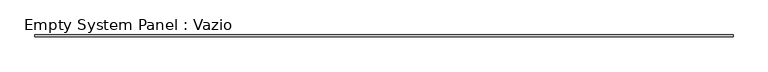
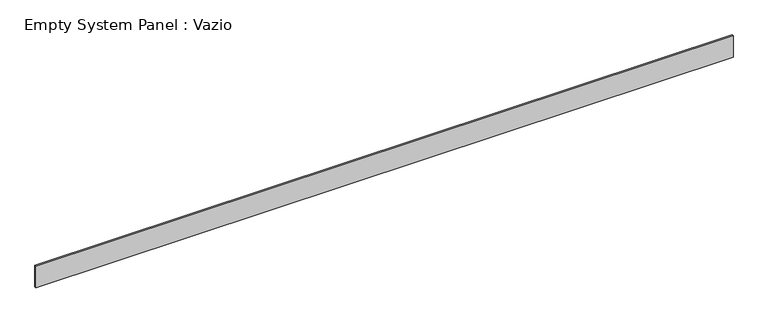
"""IFC4 building model written with IfcOpenShell, lengths in millimetres: plate geometry, Empty System Panel : Vazio."""

import ifcopenshell
import ifcopenshell.guid

model = None  # the IFC model being written
_history = None  # IfcOwnerHistory: only IFC2X3 demands one
_inside = {}  # id of a spatial element -> (the spatial element, [elements in it])
_under = {}  # id of a project, library or spatial element -> (it, [spatial elements below it])
_declared = {}  # id of a project -> (the project, [libraries it declares])
_typed = {}  # id of a type object -> (the type object, [elements of that type])
_made_of = {}  # id of a material, layer set ... -> (it, [elements and type objects made of it])


def new_model(schema):
    """Start an empty IFC model of exactly this schema.

    Asked for "IFC4X3", IfcOpenShell would pick the latest addendum, in which some entities
    have other attributes; the version numbers below select the first issue.
    IFC2X3 requires an IfcOwnerHistory on every rooted entity: one is made here for all.
    """
    global model, _history
    if schema == "IFC4X3":
        model = ifcopenshell.file(schema_version=(4, 3, 0, 0))
    else:
        model = ifcopenshell.file(schema=schema)
    _inside.clear()
    _under.clear()
    _declared.clear()
    _typed.clear()
    _made_of.clear()
    _history = None
    if model.schema == "IFC2X3":
        org = make("IfcOrganization", Name="unknown")
        user = make(
            "IfcPersonAndOrganization",
            ThePerson=make("IfcPerson", FamilyName="unknown"),
            TheOrganization=org,
        )
        app = make(
            "IfcApplication",
            ApplicationDeveloper=org,
            Version="unknown",
            ApplicationFullName="unknown",
            ApplicationIdentifier="unknown",
        )
        _history = make(
            "IfcOwnerHistory",
            OwningUser=user,
            OwningApplication=app,
            ChangeAction="ADDED",
            CreationDate=0,
        )
    return model


def make(cls, **values):
    """One entity of the class cls with the attributes given. An attribute that is None is left unset."""
    return model.create_entity(
        cls, **{name: value for name, value in values.items() if value is not None}
    )


def rooted(cls, **values):
    """An entity with a GlobalId (a new one), such as an element, a storey or a relation."""
    return make(cls, GlobalId=ifcopenshell.guid.new(), OwnerHistory=_history, **values)


def si_unit(unit_type, name, prefix=None):
    """IfcSIUnit, for example si_unit("LENGTHUNIT", "METRE", prefix="MILLI")."""
    return make("IfcSIUnit", UnitType=unit_type, Prefix=prefix, Name=name)


def assignment(units):
    """IfcUnitAssignment: the units of a project."""
    return None if units is None else make("IfcUnitAssignment", Units=units)


def point(xyz):
    """IfcCartesianPoint."""
    return None if xyz is None else make("IfcCartesianPoint", Coordinates=xyz)


def direction(xyz):
    """IfcDirection."""
    return None if xyz is None else make("IfcDirection", DirectionRatios=xyz)


def frame(location, z_axis=None, x_axis=None):
    """IfcAxis2Placement3D, a coordinate frame: its origin and axes. An axis left out is left unset."""
    return make(
        "IfcAxis2Placement3D",
        Location=point(location),
        Axis=direction(z_axis),
        RefDirection=direction(x_axis),
    )


def origin():
    """The frame at (0, 0, 0) with its axes left unset."""
    return frame((0.0, 0.0, 0.0))


def origin_with_axes():
    """The frame at (0, 0, 0) with the z axis (0, 0, 1) and the x axis (1, 0, 0) written out."""
    return frame((0.0, 0.0, 0.0), z_axis=(0.0, 0.0, 1.0), x_axis=(1.0, 0.0, 0.0))


def place(relative_to, where):
    """IfcLocalPlacement: puts the frame where relative to a parent placement (None: the world)."""
    return make(
        "IfcLocalPlacement", PlacementRelTo=relative_to, RelativePlacement=where
    )


def context(
    kind, dimensions, precision=None, world=None, true_north=None, identifier=None
):
    """IfcGeometricRepresentationContext, for example the 3D "Model" context."""
    return make(
        "IfcGeometricRepresentationContext",
        ContextIdentifier=identifier,
        ContextType=kind,
        CoordinateSpaceDimension=dimensions,
        Precision=precision,
        WorldCoordinateSystem=world,
        TrueNorth=true_north,
    )


def project(units=None, contexts=None):
    """IfcProject with its units and contexts."""
    return rooted(
        "IfcProject",
        Name="project",
        RepresentationContexts=contexts,
        UnitsInContext=assignment(units),
    )


def spatial(cls, under=None, at=None, **own):
    """A site, building, storey or space (cls), placed at a placement, below another one or the project."""
    s = rooted(cls, ObjectPlacement=at, **own)
    if under is not None:
        _under.setdefault(under.id(), (under, []))[1].append(s)
    return s


def polyline(points):
    """IfcPolyline through the points."""
    return make("IfcPolyline", Points=[point(p) for p in points])


def outline(outer, holes=None, kind="AREA"):
    """IfcArbitraryClosedProfileDef: a profile drawn as a closed curve; with holes, ...WithVoids."""
    if holes is None:
        return make("IfcArbitraryClosedProfileDef", ProfileType=kind, OuterCurve=outer)
    return make(
        "IfcArbitraryProfileDefWithVoids",
        ProfileType=kind,
        OuterCurve=outer,
        InnerCurves=holes,
    )


def extrude(swept, where, along, depth):
    """IfcExtrudedAreaSolid: the profile swept, set in the frame where, extruded along a direction by depth."""
    return make(
        "IfcExtrudedAreaSolid",
        SweptArea=swept,
        Position=where,
        ExtrudedDirection=direction(along),
        Depth=depth,
    )


def shape(context_of_items, identifier, shape_type, items):
    """IfcShapeRepresentation: the items that make up one representation, for example the "Body"."""
    return make(
        "IfcShapeRepresentation",
        ContextOfItems=context_of_items,
        RepresentationIdentifier=identifier,
        RepresentationType=shape_type,
        Items=items,
    )


def source(mapping_origin, context_of_items, identifier, shape_type, items):
    """IfcRepresentationMap: a shape defined once, which mapped items show again and again."""
    return make(
        "IfcRepresentationMap",
        MappingOrigin=mapping_origin,
        MappedRepresentation=shape(context_of_items, identifier, shape_type, items),
    )


def transform(
    local_origin,
    x_axis=None,
    y_axis=None,
    z_axis=None,
    scale=None,
    scale2=None,
    scale3=None,
    uniform=True,
):
    """IfcCartesianTransformationOperator3D, or its non-uniform kind. x_axis, y_axis, z_axis: its Axis1, 2, 3."""
    if uniform:
        return make(
            "IfcCartesianTransformationOperator3D",
            Axis1=direction(x_axis),
            Axis2=direction(y_axis),
            LocalOrigin=point(local_origin),
            Scale=scale,
            Axis3=direction(z_axis),
        )
    return make(
        "IfcCartesianTransformationOperator3DnonUniform",
        Axis1=direction(x_axis),
        Axis2=direction(y_axis),
        LocalOrigin=point(local_origin),
        Scale=scale,
        Axis3=direction(z_axis),
        Scale2=scale2,
        Scale3=scale3,
    )


def mapped(mapping_source, mapping_target):
    """IfcMappedItem: shows the shape of a source again, moved by a transform."""
    return make(
        "IfcMappedItem", MappingSource=mapping_source, MappingTarget=mapping_target
    )


def made_of(thing, what):
    """Note that an element or type object is made of a material, layer set ...; save() writes the relation."""
    if what is not None:
        _made_of.setdefault(what.id(), (what, []))[1].append(thing)
    return thing


def element(
    cls,
    number,
    at=None,
    inside=None,
    cuts=None,
    type_object=None,
    material=None,
    context=None,
    identifier="Body",
    shape_type=None,
    held_by="IfcProductDefinitionShape",
    body=None,
    shapes=None,
    **own,
):
    """One element of the class cls, such as IfcWall. Its Tag is "e" and its number.

    at: its placement. inside: the storey or other place that contains it. cuts: it is an
    opening in that element (IfcRelVoidsElement). A single representation is given by context,
    identifier, shape_type and body (its items); several are given by shapes. held_by: the class
    of the entity that holds the representations. save() writes the other relations.
    """
    e = rooted(cls, Tag="e%d" % number, ObjectPlacement=at, **own)
    if body is not None:
        shapes = [shape(context, identifier, shape_type, body)]
    if shapes is not None:
        e.Representation = make(held_by, Representations=shapes)
    if inside is not None:
        _inside.setdefault(inside.id(), (inside, []))[1].append(e)
    if cuts is not None:
        rooted(
            "IfcRelVoidsElement", RelatingBuildingElement=cuts, RelatedOpeningElement=e
        )
    if type_object is not None:
        _typed.setdefault(type_object.id(), (type_object, []))[1].append(e)
    return made_of(e, material)


def aggregate(whole, parts):
    """IfcRelAggregates: a whole, such as a stair, and the parts it consists of."""
    return rooted("IfcRelAggregates", RelatingObject=whole, RelatedObjects=parts)


def save(model, path):
    """Write the relations noted so far, then the file.

    IfcRelAggregates (storeys below a building ...), IfcRelContainedInSpatialStructure (elements
    in a storey), IfcRelDefinesByType, IfcRelAssociatesMaterial and IfcRelDeclares: one each for
    every whole, place, type object, material and project.
    """
    for whole, parts in _under.values():
        aggregate(whole, parts)
    for where, things in _inside.values():
        rooted(
            "IfcRelContainedInSpatialStructure",
            RelatedElements=things,
            RelatingStructure=where,
        )
    for kind, things in _typed.values():
        rooted("IfcRelDefinesByType", RelatedObjects=things, RelatingType=kind)
    for what, things in _made_of.values():
        rooted("IfcRelAssociatesMaterial", RelatedObjects=things, RelatingMaterial=what)
    for by, libraries in _declared.values():
        rooted("IfcRelDeclares", RelatingContext=by, RelatedDefinitions=libraries)
    model.write(path)


def empty_system_panel_vazio_2971b7ce(model_context):
    return source(origin(), model_context, "Body", "SweptSolid", [
        extrude(outline(polyline([(19737.5005553, 50.0), (-19737.5005553, 50.0), (-19737.5005553, 150.0), (19737.5005553, 150.0), (19737.5005553, 50.0)])), origin_with_axes(), (0.0, 0.0, 1.0), 1288.7809189),
    ])


if __name__ == "__main__":
    model = new_model("IFC4")
    model_context = context("Model", 3, world=origin())
    ifc_project = project(units=[si_unit("LENGTHUNIT", "METRE", prefix="MILLI")], contexts=[model_context])
    site = spatial("IfcSite", under=ifc_project)
    building = spatial("IfcBuilding", under=site)
    placement = place(None, origin())
    empty_system_panel_vazio_shape = empty_system_panel_vazio_2971b7ce(model_context)
    element("IfcPlate", 1, ObjectType="Empty System Panel : Vazio", at=placement, inside=building, context=model_context, shape_type="MappedRepresentation", body=[
        mapped(empty_system_panel_vazio_shape, transform((0.0, 0.0, 0.0), x_axis=(1.0, 0.0, 0.0), y_axis=(0.0, 1.0, 0.0), z_axis=(0.0, 0.0, 1.0))),
    ])
    save(model, "model.ifc")
